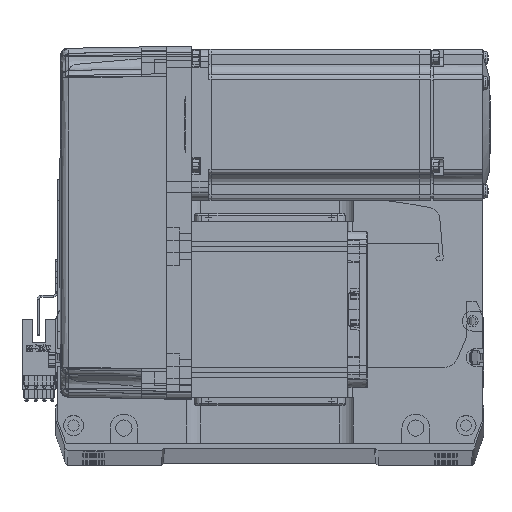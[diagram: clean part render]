
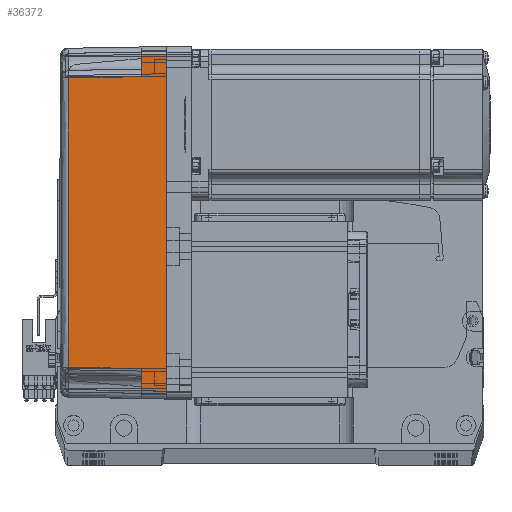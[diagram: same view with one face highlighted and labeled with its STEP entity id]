
A CAD part, top view. The second image highlights one B-rep face of the part: STEP entity #36372.
In plain terms, the highlighted planar face has unit normal (-0.018, 0, 1) as drawn and (0, 1, 0.017) by its records, which use the part's own axes.
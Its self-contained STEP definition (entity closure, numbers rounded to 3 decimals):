
#1869 = VECTOR ( 'NONE', #6448, 1000. ) ;
#2390 = ORIENTED_EDGE ( 'NONE', *, *, #65890, .T. ) ;
#3413 = DIRECTION ( 'NONE',  ( 0.017, -0.017, 1. ) ) ;
#3819 = FACE_OUTER_BOUND ( 'NONE', #11969, .T. ) ;
#5329 = CARTESIAN_POINT ( 'NONE',  ( 67.001, 36.001, -0.052 ) ) ;
#6448 = DIRECTION ( 'NONE',  ( 0.017, 0.017, -1. ) ) ;
#8374 = VECTOR ( 'NONE', #20083, 1000. ) ;
#10037 = CARTESIAN_POINT ( 'NONE',  ( 67., 36., 0. ) ) ;
#11724 = DIRECTION ( 'NONE',  ( 0.017, -0.017, 1. ) ) ;
#11969 = EDGE_LOOP ( 'NONE', ( #2390, #28385, #39436, #20675, #24147, #45321, #21513, #41558 ) ) ;
#12557 = DIRECTION ( 'NONE',  ( 0., -0.017, 1. ) ) ;
#13088 = CARTESIAN_POINT ( 'NONE',  ( 57.495, 35.32, 38.985 ) ) ;
#14035 = CARTESIAN_POINT ( 'NONE',  ( -19.165, 35.316, 39.181 ) ) ;
#15207 = CARTESIAN_POINT ( 'NONE',  ( -58., 35.825, 10. ) ) ;
#16557 = CARTESIAN_POINT ( 'NONE',  ( 0., 36., 0. ) ) ;
#16763 = EDGE_CURVE ( 'NONE', #60394, #44226, #67773, .T. ) ;
#19452 = CARTESIAN_POINT ( 'NONE',  ( 57.495, 35.32, 38.985 ) ) ;
#20083 = DIRECTION ( 'NONE',  ( 1., 0., 0. ) ) ;
#20246 = EDGE_CURVE ( 'NONE', #71206, #54430, #59951, .T. ) ;
#20517 = CARTESIAN_POINT ( 'NONE',  ( -66.826, 35.825, 10. ) ) ;
#20675 = ORIENTED_EDGE ( 'NONE', *, *, #20246, .T. ) ;
#21513 = ORIENTED_EDGE ( 'NONE', *, *, #23053, .F. ) ;
#23053 = EDGE_CURVE ( 'NONE', #50113, #44226, #55447, .T. ) ;
#24030 = CARTESIAN_POINT ( 'NONE',  ( -58., 35.825, 10. ) ) ;
#24147 = ORIENTED_EDGE ( 'NONE', *, *, #54161, .T. ) ;
#24968 = LINE ( 'NONE', #16557, #68633 ) ;
#26952 = VECTOR ( 'NONE', #51756, 1000. ) ;
#27228 = DIRECTION ( 'NONE',  ( 1., 0., 0. ) ) ;
#28385 = ORIENTED_EDGE ( 'NONE', *, *, #33531, .T. ) ;
#29602 = CARTESIAN_POINT ( 'NONE',  ( 58., 35.825, 10. ) ) ;
#33029 = CARTESIAN_POINT ( 'NONE',  ( 66.826, 35.825, 10. ) ) ;
#33531 = EDGE_CURVE ( 'NONE', #68160, #70153, #59270, .T. ) ;
#34556 = CARTESIAN_POINT ( 'NONE',  ( -67., 36., 0. ) ) ;
#35526 = CARTESIAN_POINT ( 'NONE',  ( -57.495, 35.32, 38.985 ) ) ;
#36372 = ADVANCED_FACE ( 'NONE', ( #3819 ), #56737, .T. ) ;
#36618 = EDGE_CURVE ( 'NONE', #70153, #71206, #63325, .T. ) ;
#39436 = ORIENTED_EDGE ( 'NONE', *, *, #36618, .T. ) ;
#41558 = ORIENTED_EDGE ( 'NONE', *, *, #66965, .F. ) ;
#42363 = CARTESIAN_POINT ( 'NONE',  ( 57.495, 35.32, 38.985 ) ) ;
#42606 = VECTOR ( 'NONE', #11724, 1000. ) ;
#43732 = DIRECTION ( 'NONE',  ( -0.017, -0.017, 1. ) ) ;
#44226 = VERTEX_POINT ( 'NONE', #33029 ) ;
#44856 = VERTEX_POINT ( 'NONE', #34556 ) ;
#45167 = AXIS2_PLACEMENT_3D ( 'NONE', #62092, #51338, #12557 ) ;
#45321 = ORIENTED_EDGE ( 'NONE', *, *, #16763, .T. ) ;
#47379 = CARTESIAN_POINT ( 'NONE',  ( 70., 35.825, 10. ) ) ;
#50113 = VERTEX_POINT ( 'NONE', #10037 ) ;
#51327 = LINE ( 'NONE', #71289, #42606 ) ;
#51338 = DIRECTION ( 'NONE',  ( 0., 1., 0.017 ) ) ;
#51756 = DIRECTION ( 'NONE',  ( 1., 0., 0. ) ) ;
#53062 = CARTESIAN_POINT ( 'NONE',  ( 19.165, 35.316, 39.181 ) ) ;
#54161 = EDGE_CURVE ( 'NONE', #54430, #60394, #63127, .T. ) ;
#54430 = VERTEX_POINT ( 'NONE', #42363 ) ;
#55447 = LINE ( 'NONE', #5329, #72027 ) ;
#56737 = PLANE ( 'NONE',  #45167 ) ;
#56931 = CARTESIAN_POINT ( 'NONE',  ( 70., 35.825, 10. ) ) ;
#59270 = LINE ( 'NONE', #56931, #26952 ) ;
#59951 = B_SPLINE_CURVE_WITH_KNOTS ( 'NONE', 3,
 ( #35526, #14035, #53062, #19452 ),
 .UNSPECIFIED., .F., .F.,
 ( 4, 4 ),
 ( 0., 1. ),
 .UNSPECIFIED. ) ;
#60394 = VERTEX_POINT ( 'NONE', #29602 ) ;
#62092 = CARTESIAN_POINT ( 'NONE',  ( 70., 36., 0. ) ) ;
#63127 = LINE ( 'NONE', #13088, #1869 ) ;
#63325 = LINE ( 'NONE', #15207, #69426 ) ;
#65890 = EDGE_CURVE ( 'NONE', #44856, #68160, #51327, .T. ) ;
#66965 = EDGE_CURVE ( 'NONE', #44856, #50113, #24968, .T. ) ;
#67773 = LINE ( 'NONE', #47379, #8374 ) ;
#68160 = VERTEX_POINT ( 'NONE', #20517 ) ;
#68397 = CARTESIAN_POINT ( 'NONE',  ( -57.495, 35.32, 38.985 ) ) ;
#68633 = VECTOR ( 'NONE', #27228, 1000. ) ;
#69426 = VECTOR ( 'NONE', #3413, 1000. ) ;
#70153 = VERTEX_POINT ( 'NONE', #24030 ) ;
#71206 = VERTEX_POINT ( 'NONE', #68397 ) ;
#71289 = CARTESIAN_POINT ( 'NONE',  ( -67., 36., 0. ) ) ;
#72027 = VECTOR ( 'NONE', #43732, 1000. ) ;
